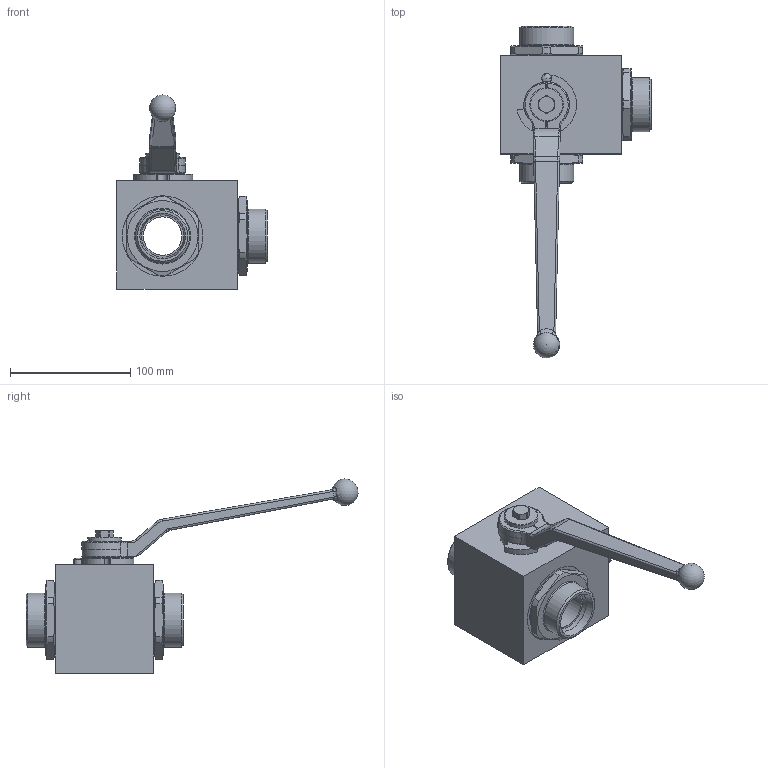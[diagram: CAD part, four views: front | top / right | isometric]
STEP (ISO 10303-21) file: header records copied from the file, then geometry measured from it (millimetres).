
FILE_DESCRIPTION( ( 'Unknown' ), '1' );
FILE_NAME( 'H:/PISTER/3D-MODELLE/BK3-Edelstahl stp/BK3-Edelst DN32 35L.stp', 'Unknown', ( 'Unknown' ), ( 'Unknown' ), 'PSStep 14.0', 'Unknown', ' ' );
FILE_SCHEMA( ( 'AUTOMOTIVE_DESIGN { 1 0 10303 214 1 1 1 1 }' ) );
Length unit declared in the file: millimetre
Products named in the file (11): Assem1; 56-032-140-oa9; 09-17-002; 58-1473-020-oa10; 58-0440-008; 58-0933-262; 04-032-068-oa11; 04-032-068-oa12; 04-032-068-oa13; Griff_SW17_; 01-032-086-oa14
Assembly tree (10 placements, depth 2):
  Assem1
    56-032-140-oa9
    09-17-002
    58-1473-020-oa10
    58-0440-008
    58-0933-262
    04-032-068-oa11
    04-032-068-oa12
    04-032-068-oa13
    Griff_SW17_
    01-032-086-oa14
Bounding box: 124.9 x 276.32 x 161.5 mm (x, y, z)
Volume: 605590.7 mm3; surface area: 129272.7 mm2
Topology: 10 solids, 10 shells, 356 faces, 900 edges, 570 vertices
Faces by surface type: plane 125, cylinder 120, cone 55, torus 35, bspline 18, sphere 3
Full cylindrical faces by diameter (mm): 6.647 x1, 7.98 x1, 8 x1, 9.2 x1, 24 x2, 28 x1, 30 x1, 32 x4, 35.3 x3, 40 x1, 45 x3, 48 x1, 52.3 x1, 53.835 x1, 56 x1, 56.2 x3, 56.35 x3, 60 x4, 67 x3
Entity records: 15008 total; most frequent: CARTESIAN_POINT 4059, DIRECTION 1684, ORIENTED_EDGE 1542, EDGE_CURVE 771, AXIS2_PLACEMENT_3D 702, VERTEX_POINT 531, EDGE_LOOP 470, FACE_OUTER_BOUND 411
